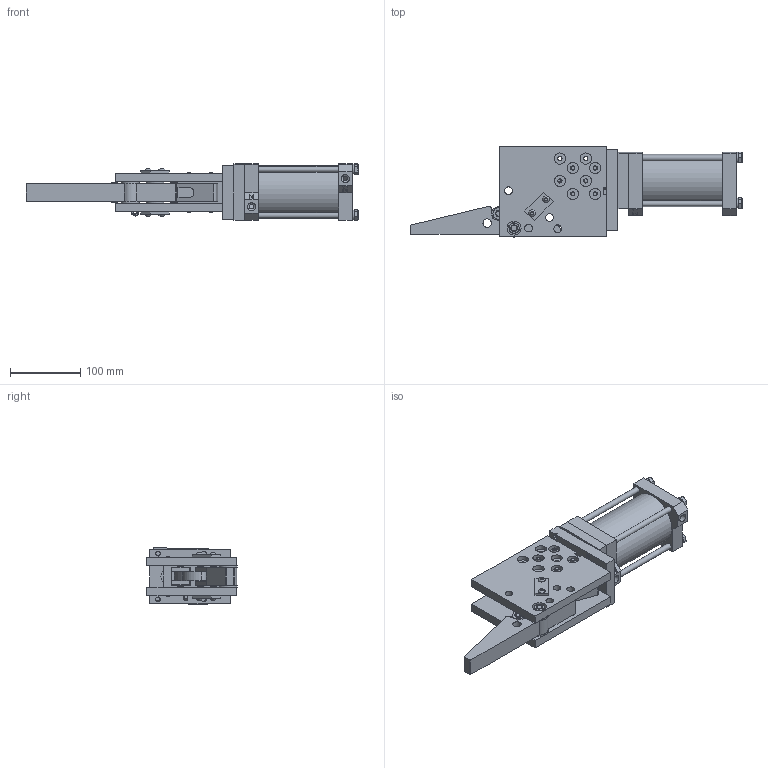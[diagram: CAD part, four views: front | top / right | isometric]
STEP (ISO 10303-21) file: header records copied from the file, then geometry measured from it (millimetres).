
FILE_DESCRIPTION(/* description */ ('SIDE PLATE-RH'),/* implementation_level */ '2;1');
FILE_NAME(/* name */ 'C:\Users\rcarver.WELKER\Desktop\CMX08V03A00.stp',/* time_stamp */ '2016-05-03T13:57:16-04:00',/* author */ ('rcarver'),/* organization */ (''),/* preprocessor_version */ 'ST-DEVELOPER v15.2',/* originating_system */ 'Autodesk Inventor 2014',/* authorisation */ '');
FILE_SCHEMA (('CONFIG_CONTROL_DESIGN'));
Products named in the file (42): CMXE01-RH; CMXE01-LH; CMXE03XL; CMXE05; CMXE06; CMXE07; CMXE19; 0.500X1.500XHH-.250; 0.375-16 HEXJAMNUT; CJ08E10-4; 1 OD X .500 ID X .03; M5X0.8-12 BHCS; C-31ST-PA; CMXE04; NUT; NYLON; 94645A205; 0.438-20X1.750 FLATPOINT; M8X1.25-20 SHCS; CMXE22; CMXE13; CMXE15-05; CMXE17; WCW-2169E01-50; NL8; MC0750X1000-125N; TSR-075BN70; CMXE02; DB4E16; UBS40E01N; UBS40E08; S01303E04; MOR-2.0X016.0bn70; TSP-332BN70; MA1500x2.75DIA; 0.625ID-SAE; 0.625-18 HEXNUT; UBS40E02-50; UBS40E03N; MOR-3.0X064.0bn70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
Bounding box: 471.79 x 128.01 x 80.66 mm (x, y, z)
Volume: 1422836.5 mm3; surface area: 461866.5 mm2
Topology: 72 solids, 72 shells, 1073 faces, 2306 edges, 1498 vertices
Faces by surface type: plane 517, cylinder 374, cone 160, torus 16, bspline 6
Full cylindrical faces by diameter (mm): 4.134 x4, 5 x4, 5.076 x1, 5.188 x4, 5.2 x4, 6 x14, 6.045 x16, 6.401 x2, 6.538 x1, 6.647 x16, 6.782 x4, 7.01 x6, 7.798 x1, 7.925 x9, 7.938 x4, 8 x19, 8.026 x20, 8.5 x4, 8.7 x4, 8.731 x8, 9 x4, 9.5 x4, 9.525 x2, 9.728 x3, 10.917 x8, 11.112 x1, 11.43 x4, 11.445 x2, 12 x1, 12.7 x11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
Entity records: 21375 total; most frequent: CARTESIAN_POINT 4468, DIRECTION 3562, ORIENTED_EDGE 2618, AXIS2_PLACEMENT_3D 1529, EDGE_LOOP 1320, EDGE_CURVE 1309, VERTEX_POINT 1013, ADVANCED_FACE 752
